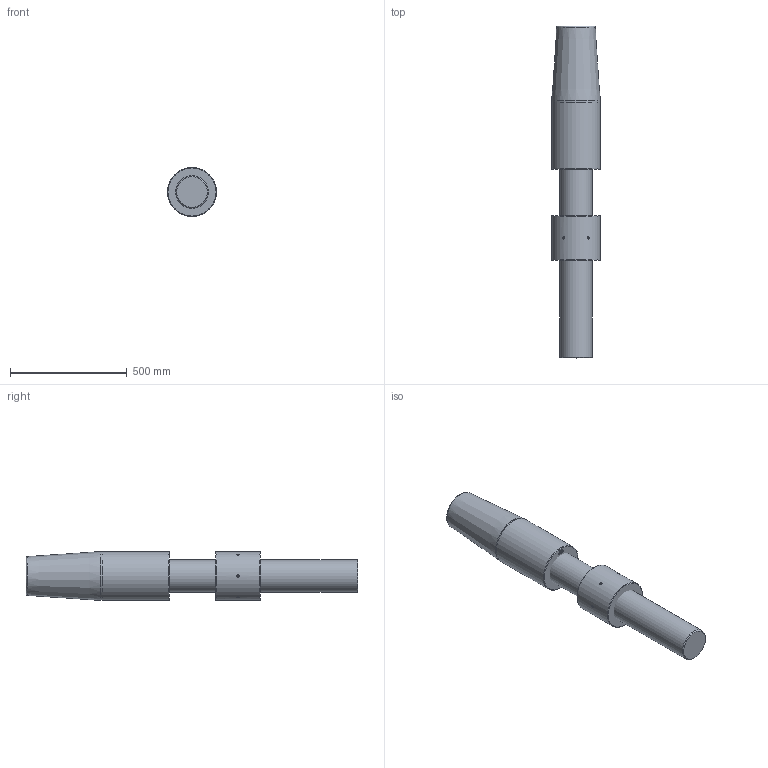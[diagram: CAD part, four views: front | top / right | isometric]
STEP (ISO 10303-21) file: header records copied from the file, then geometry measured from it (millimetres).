
FILE_DESCRIPTION(/* description */ (''),/* implementation_level */ '2;1');
FILE_NAME(/* name */ 'C:\Users\ranca\Desktop\CYM\ARRANGEMENT\CYM072 52 061 0.stp',/* time_stamp */ '2021-04-22T21:50:15+02:00',/* author */ ('ranca'),/* organization */ (''),/* preprocessor_version */ 'ST-DEVELOPER v16.13',/* originating_system */ 'Autodesk Inventor 2018',/* authorisation */ '');
FILE_SCHEMA (('AUTOMOTIVE_DESIGN { 1 0 10303 214 3 1 1 }'));
Length unit declared in the file: millimetre
Products named in the file (4): CYM072-52-061-0; CYM012-52-061-0_ROD; CYC072 52 065 0_CYL SOK_RH; CYM072-41-051-0
Assembly tree (3 placements, depth 2):
  CYM072-52-061-0
    CYM012-52-061-0_ROD
    CYC072 52 065 0_CYL SOK_RH
    CYM072-41-051-0
Bounding box: 210 x 1424 x 210 mm (x, y, z)
Volume: 41035713.4 mm3; surface area: 1101195.5 mm2
Topology: 3 solids, 3 shells, 490 faces, 1318 edges, 876 vertices
Faces by surface type: bspline 245, plane 223, cone 11, cylinder 9, torus 2
Full cylindrical faces by diameter (mm): 10 x6, 140 x1, 210 x2
Entity records: 16663 total; most frequent: CARTESIAN_POINT 6066, ORIENTED_EDGE 2578, DIRECTION 1314, EDGE_CURVE 1289, VERTEX_POINT 870, LINE 766, VECTOR 766, EDGE_LOOP 555
